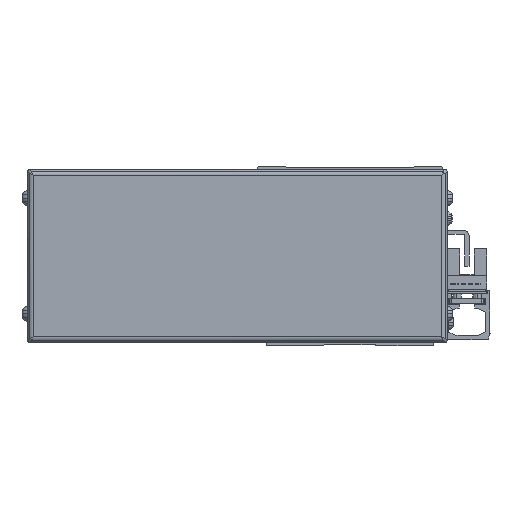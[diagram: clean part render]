
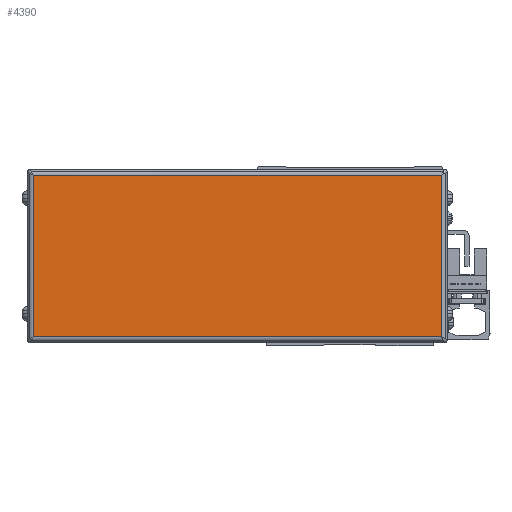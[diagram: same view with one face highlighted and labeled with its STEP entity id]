
A CAD part, front view. The second image highlights one B-rep face of the part: STEP entity #4390.
In plain terms, the highlighted planar face has unit normal (0, -1, 0).
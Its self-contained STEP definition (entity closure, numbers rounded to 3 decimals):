
#4390=ADVANCED_FACE('',(#10018),#10019,.F.);
#10018=FACE_OUTER_BOUND('',#17829,.T.);
#10019=PLANE('',#17830);
#17829=EDGE_LOOP('',(#30012,#30013,#30014,#30015));
#17830=AXIS2_PLACEMENT_3D('',#30016,#30017,#30018);
#30012=ORIENTED_EDGE('',*,*,#47691,.T.);
#30013=ORIENTED_EDGE('',*,*,#47692,.T.);
#30014=ORIENTED_EDGE('',*,*,#47693,.T.);
#30015=ORIENTED_EDGE('',*,*,#47694,.T.);
#30016=CARTESIAN_POINT('',(261.,81.,-4.));
#30017=DIRECTION('',(0.,1.0,0.));
#30018=DIRECTION('',(0.,0.,1.0));
#47691=EDGE_CURVE('',#58411,#51909,#58412,.T.);
#47692=EDGE_CURVE('',#51909,#58413,#58414,.T.);
#47693=EDGE_CURVE('',#58413,#58415,#58416,.T.);
#47694=EDGE_CURVE('',#58415,#58411,#58417,.T.);
#51909=VERTEX_POINT('',#63862);
#58411=VERTEX_POINT('',#73242);
#58412=LINE('',#73243,#73244);
#58413=VERTEX_POINT('',#73245);
#58414=LINE('',#73246,#73247);
#58415=VERTEX_POINT('',#73248);
#58416=LINE('',#73249,#73250);
#58417=LINE('',#73251,#73252);
#63862=CARTESIAN_POINT('',(190.3,81.,24.));
#73242=CARTESIAN_POINT('',(331.7,81.,24.));
#73243=CARTESIAN_POINT('',(261.,81.,24.));
#73244=VECTOR('',#85525,10.0);
#73245=CARTESIAN_POINT('',(190.3,81.,-32.));
#73246=CARTESIAN_POINT('',(190.3,81.,-4.));
#73247=VECTOR('',#85526,10.0);
#73248=CARTESIAN_POINT('',(331.7,81.,-32.));
#73249=CARTESIAN_POINT('',(261.,81.,-32.));
#73250=VECTOR('',#85527,10.0);
#73251=CARTESIAN_POINT('',(331.7,81.,-4.));
#73252=VECTOR('',#85528,10.0);
#85525=DIRECTION('',(-1.0,0.,0.));
#85526=DIRECTION('',(0.,0.,-1.0));
#85527=DIRECTION('',(1.0,0.,0.));
#85528=DIRECTION('',(0.,0.,1.0));
